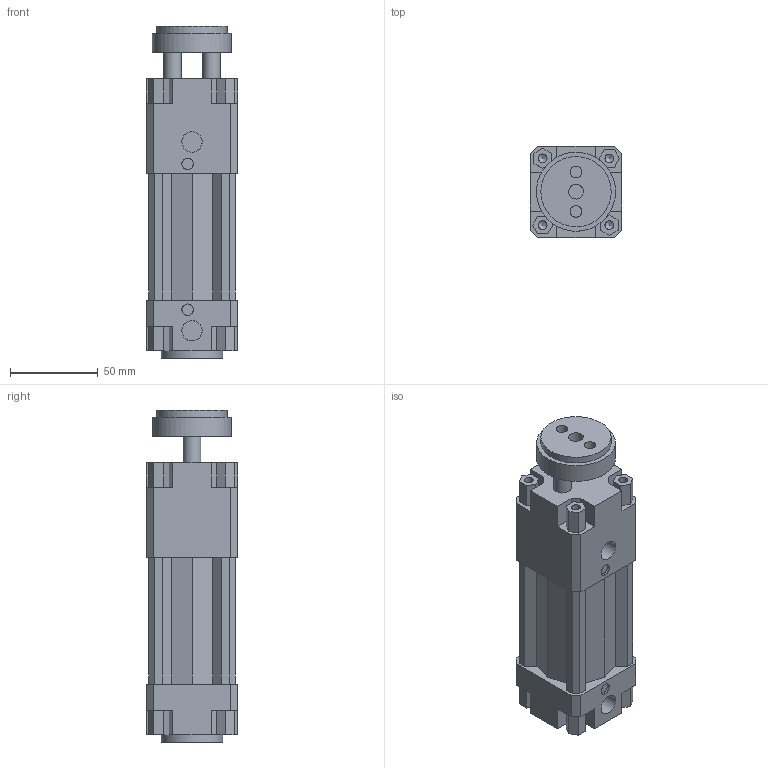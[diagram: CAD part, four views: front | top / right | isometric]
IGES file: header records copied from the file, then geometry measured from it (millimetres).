
Global section: file name: 134#_040_0025_01; native system: Autodesk Inventor 2014; preprocessor: unknown; author: A. Manieri; date: 20161006.164228; units: millimetre
Bounding box: 52 x 52 x 189 mm (x, y, z)
Volume: 343731 mm3; surface area: 80285.3 mm2
Topology: 2 solids, 2 shells, 180 faces, 492 edges, 336 vertices
Faces by surface type: bspline 180
